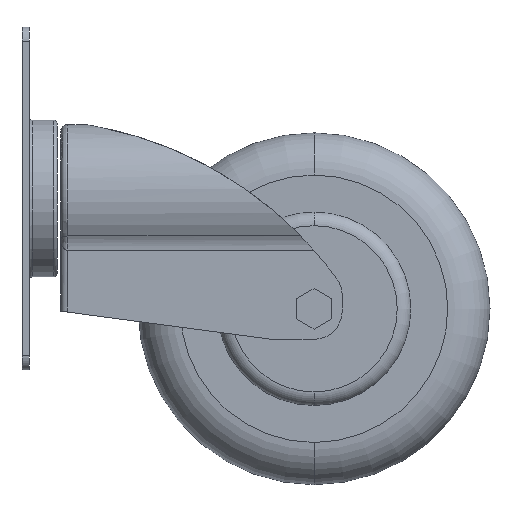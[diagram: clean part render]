
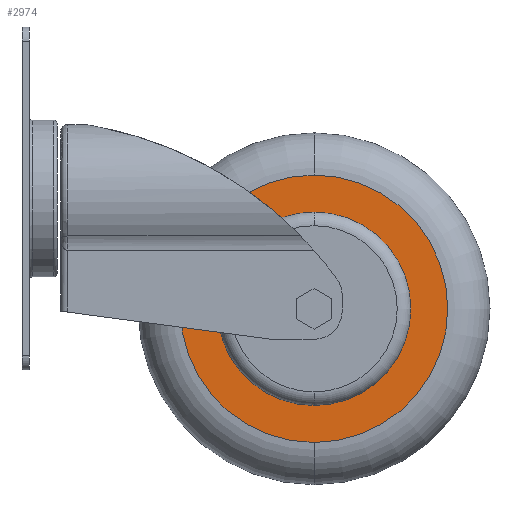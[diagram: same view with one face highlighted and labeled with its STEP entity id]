
A CAD part, left-side view. The second image highlights one B-rep face of the part: STEP entity #2974.
In plain terms, the highlighted planar face has unit normal (-1, 0, 0).
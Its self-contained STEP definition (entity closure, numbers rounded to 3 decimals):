
#39 = DIRECTION ( 'NONE',  ( 0., 0., -1. ) ) ;
#162 = EDGE_CURVE ( 'NONE', #1095, #2247, #2002, .T. ) ;
#501 = CARTESIAN_POINT ( 'NONE',  ( -12., -83., -69.333 ) ) ;
#615 = CARTESIAN_POINT ( 'NONE',  ( -12., -83., -31.333 ) ) ;
#777 = CARTESIAN_POINT ( 'NONE',  ( -12., -83., -31.333 ) ) ;
#917 = EDGE_LOOP ( 'NONE', ( #2603, #3119 ) ) ;
#993 = CARTESIAN_POINT ( 'NONE',  ( -12., -83., -31.333 ) ) ;
#997 = CIRCLE ( 'NONE', #2391, 38. ) ;
#1095 = VERTEX_POINT ( 'NONE', #1275 ) ;
#1275 = CARTESIAN_POINT ( 'NONE',  ( -12., -83., 6.667 ) ) ;
#1445 = AXIS2_PLACEMENT_3D ( 'NONE', #615, #2512, #1708 ) ;
#1542 = DIRECTION ( 'NONE',  ( 0., 0., -1. ) ) ;
#1708 = DIRECTION ( 'NONE',  ( 0., 0., -1. ) ) ;
#2002 = CIRCLE ( 'NONE', #1445, 38. ) ;
#2247 = VERTEX_POINT ( 'NONE', #501 ) ;
#2251 = AXIS2_PLACEMENT_3D ( 'NONE', #993, #3150, #1542 ) ;
#2391 = AXIS2_PLACEMENT_3D ( 'NONE', #777, #3215, #39 ) ;
#2512 = DIRECTION ( 'NONE',  ( -1., 0., 0. ) ) ;
#2603 = ORIENTED_EDGE ( 'NONE', *, *, #3102, .T. ) ;
#2609 = PLANE ( 'NONE',  #2251 ) ;
#2974 = ADVANCED_FACE ( 'NONE', ( #3188 ), #2609, .F. ) ;
#3102 = EDGE_CURVE ( 'NONE', #2247, #1095, #997, .T. ) ;
#3119 = ORIENTED_EDGE ( 'NONE', *, *, #162, .T. ) ;
#3150 = DIRECTION ( 'NONE',  ( 1., 0., 0. ) ) ;
#3188 = FACE_OUTER_BOUND ( 'NONE', #917, .T. ) ;
#3215 = DIRECTION ( 'NONE',  ( -1., 0., 0. ) ) ;
